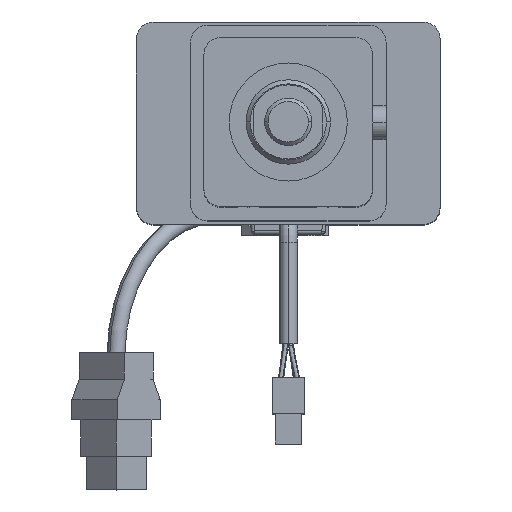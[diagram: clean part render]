
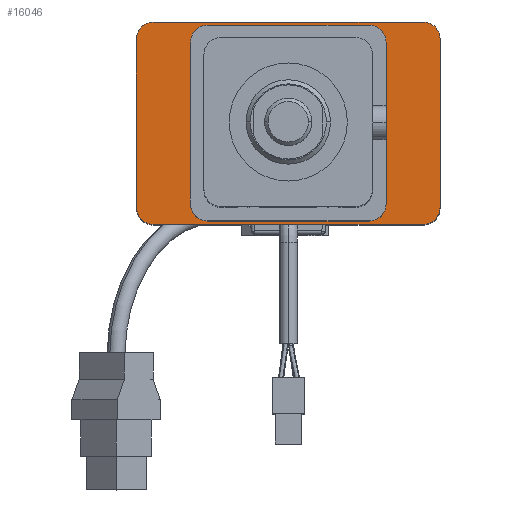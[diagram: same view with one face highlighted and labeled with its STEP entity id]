
A CAD part, top view. The second image highlights one B-rep face of the part: STEP entity #16046.
In plain terms, the highlighted planar face has unit normal (0, 0, 1).
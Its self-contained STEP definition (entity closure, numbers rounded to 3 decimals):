
#68 = DIRECTION ( 'NONE',  ( 0., 0., -1. ) ) ;
#94 = CARTESIAN_POINT ( 'NONE',  ( -29., 24., -20. ) ) ;
#111 = DIRECTION ( 'NONE',  ( 0., 0., 1. ) ) ;
#316 = CARTESIAN_POINT ( 'NONE',  ( 24., 29., -20. ) ) ;
#715 = DIRECTION ( 'NONE',  ( 0., 0., 1. ) ) ;
#825 = DIRECTION ( 'NONE',  ( 1., 0., 0. ) ) ;
#842 = CARTESIAN_POINT ( 'NONE',  ( -40., -30., -20. ) ) ;
#944 = CARTESIAN_POINT ( 'NONE',  ( 29., 24., -20. ) ) ;
#960 = LINE ( 'NONE', #1372, #21905 ) ;
#1018 = EDGE_CURVE ( 'NONE', #17635, #7182, #10078, .T. ) ;
#1049 = VERTEX_POINT ( 'NONE', #11061 ) ;
#1110 = VERTEX_POINT ( 'NONE', #22001 ) ;
#1237 = EDGE_CURVE ( 'NONE', #14637, #20295, #22277, .T. ) ;
#1372 = CARTESIAN_POINT ( 'NONE',  ( 29., -24., -20. ) ) ;
#1450 = DIRECTION ( 'NONE',  ( 0., -1., 0. ) ) ;
#1457 = LINE ( 'NONE', #316, #15629 ) ;
#1964 = ORIENTED_EDGE ( 'NONE', *, *, #15720, .T. ) ;
#1994 = DIRECTION ( 'NONE',  ( -1., 0., 0. ) ) ;
#2032 = CARTESIAN_POINT ( 'NONE',  ( -24., -24., -20. ) ) ;
#2052 = AXIS2_PLACEMENT_3D ( 'NONE', #4249, #16906, #20217 ) ;
#2079 = VERTEX_POINT ( 'NONE', #842 ) ;
#2379 = VECTOR ( 'NONE', #12516, 1000. ) ;
#2420 = PLANE ( 'NONE',  #2052 ) ;
#2699 = AXIS2_PLACEMENT_3D ( 'NONE', #11464, #715, #11294 ) ;
#2756 = CARTESIAN_POINT ( 'NONE',  ( 40., 25., -20. ) ) ;
#3701 = VERTEX_POINT ( 'NONE', #4812 ) ;
#3795 = CARTESIAN_POINT ( 'NONE',  ( 24., 24., -20. ) ) ;
#3919 = CARTESIAN_POINT ( 'NONE',  ( 24., -24., -20. ) ) ;
#4026 = DIRECTION ( 'NONE',  ( 0., 0., -1. ) ) ;
#4205 = ORIENTED_EDGE ( 'NONE', *, *, #1237, .T. ) ;
#4249 = CARTESIAN_POINT ( 'NONE',  ( 0., 0., -20. ) ) ;
#4285 = EDGE_CURVE ( 'NONE', #20875, #2079, #20184, .T. ) ;
#4315 = ORIENTED_EDGE ( 'NONE', *, *, #12283, .T. ) ;
#4364 = VECTOR ( 'NONE', #5154, 1000. ) ;
#4578 = DIRECTION ( 'NONE',  ( 0., 0., 1. ) ) ;
#4711 = CARTESIAN_POINT ( 'NONE',  ( -29., -24., -20. ) ) ;
#4712 = ORIENTED_EDGE ( 'NONE', *, *, #15957, .T. ) ;
#4730 = EDGE_CURVE ( 'NONE', #3701, #10350, #11702, .T. ) ;
#4757 = AXIS2_PLACEMENT_3D ( 'NONE', #20242, #5688, #20398 ) ;
#4812 = CARTESIAN_POINT ( 'NONE',  ( 45., 25., -20. ) ) ;
#5154 = DIRECTION ( 'NONE',  ( -1., 0., 0. ) ) ;
#5391 = CARTESIAN_POINT ( 'NONE',  ( -45., 30., -20. ) ) ;
#5442 = ORIENTED_EDGE ( 'NONE', *, *, #4730, .T. ) ;
#5688 = DIRECTION ( 'NONE',  ( 0., 0., 1. ) ) ;
#5765 = EDGE_CURVE ( 'NONE', #20295, #17635, #1457, .T. ) ;
#5778 = CARTESIAN_POINT ( 'NONE',  ( 45., 30., -20. ) ) ;
#5810 = CARTESIAN_POINT ( 'NONE',  ( 40., -30., -20. ) ) ;
#5914 = AXIS2_PLACEMENT_3D ( 'NONE', #3795, #4026, #20224 ) ;
#5944 = EDGE_CURVE ( 'NONE', #20875, #8276, #9366, .T. ) ;
#5990 = VERTEX_POINT ( 'NONE', #18393 ) ;
#6071 = CARTESIAN_POINT ( 'NONE',  ( 24., 29., -20. ) ) ;
#6270 = VERTEX_POINT ( 'NONE', #4711 ) ;
#6379 = AXIS2_PLACEMENT_3D ( 'NONE', #9711, #22409, #11543 ) ;
#7182 = VERTEX_POINT ( 'NONE', #944 ) ;
#7423 = EDGE_CURVE ( 'NONE', #1110, #22749, #22376, .T. ) ;
#7812 = EDGE_CURVE ( 'NONE', #6270, #14637, #18049, .T. ) ;
#8276 = VERTEX_POINT ( 'NONE', #11470 ) ;
#8828 = CIRCLE ( 'NONE', #22077, 5. ) ;
#9006 = LINE ( 'NONE', #16946, #22070 ) ;
#9035 = CARTESIAN_POINT ( 'NONE',  ( -24., -29., -20. ) ) ;
#9112 = CARTESIAN_POINT ( 'NONE',  ( -40., 25., -20. ) ) ;
#9366 = CIRCLE ( 'NONE', #2699, 5. ) ;
#9378 = ORIENTED_EDGE ( 'NONE', *, *, #18232, .F. ) ;
#9711 = CARTESIAN_POINT ( 'NONE',  ( -24., 24., -20. ) ) ;
#9899 = VERTEX_POINT ( 'NONE', #22008 ) ;
#9977 = FACE_BOUND ( 'NONE', #13723, .T. ) ;
#10078 = CIRCLE ( 'NONE', #5914, 5. ) ;
#10350 = VERTEX_POINT ( 'NONE', #13517 ) ;
#10633 = CARTESIAN_POINT ( 'NONE',  ( 45., -30., -20. ) ) ;
#11061 = CARTESIAN_POINT ( 'NONE',  ( -40., 30., -20. ) ) ;
#11162 = DIRECTION ( 'NONE',  ( 0., 1., 0. ) ) ;
#11294 = DIRECTION ( 'NONE',  ( -1., 0., 0. ) ) ;
#11419 = ORIENTED_EDGE ( 'NONE', *, *, #5765, .T. ) ;
#11464 = CARTESIAN_POINT ( 'NONE',  ( 40., -25., -20. ) ) ;
#11470 = CARTESIAN_POINT ( 'NONE',  ( 45., -25., -20. ) ) ;
#11543 = DIRECTION ( 'NONE',  ( 1., 0., 0. ) ) ;
#11702 = CIRCLE ( 'NONE', #15731, 5. ) ;
#11738 = ORIENTED_EDGE ( 'NONE', *, *, #12830, .F. ) ;
#11911 = ORIENTED_EDGE ( 'NONE', *, *, #13691, .T. ) ;
#12273 = LINE ( 'NONE', #9035, #4364 ) ;
#12283 = EDGE_CURVE ( 'NONE', #1049, #22749, #16887, .T. ) ;
#12516 = DIRECTION ( 'NONE',  ( -1., 0., 0. ) ) ;
#12708 = DIRECTION ( 'NONE',  ( 1., 0., 0. ) ) ;
#12830 = EDGE_CURVE ( 'NONE', #3701, #8276, #12893, .T. ) ;
#12893 = LINE ( 'NONE', #5778, #14896 ) ;
#13100 = ORIENTED_EDGE ( 'NONE', *, *, #15445, .T. ) ;
#13121 = AXIS2_PLACEMENT_3D ( 'NONE', #3919, #20114, #21971 ) ;
#13183 = CARTESIAN_POINT ( 'NONE',  ( -45., 25., -20. ) ) ;
#13517 = CARTESIAN_POINT ( 'NONE',  ( 40., 30., -20. ) ) ;
#13691 = EDGE_CURVE ( 'NONE', #5990, #9899, #12273, .T. ) ;
#13723 = EDGE_LOOP ( 'NONE', ( #14627, #4205, #11419, #23265, #13100, #18259, #11911, #4712 ) ) ;
#14442 = DIRECTION ( 'NONE',  ( 0., 1., 0. ) ) ;
#14627 = ORIENTED_EDGE ( 'NONE', *, *, #7812, .T. ) ;
#14637 = VERTEX_POINT ( 'NONE', #18250 ) ;
#14896 = VECTOR ( 'NONE', #15054, 1000. ) ;
#14981 = VECTOR ( 'NONE', #11162, 1000. ) ;
#15054 = DIRECTION ( 'NONE',  ( 0., -1., 0. ) ) ;
#15445 = EDGE_CURVE ( 'NONE', #7182, #17567, #960, .T. ) ;
#15629 = VECTOR ( 'NONE', #22089, 1000. ) ;
#15720 = EDGE_CURVE ( 'NONE', #1110, #2079, #17332, .T. ) ;
#15731 = AXIS2_PLACEMENT_3D ( 'NONE', #2756, #4578, #17242 ) ;
#15957 = EDGE_CURVE ( 'NONE', #9899, #6270, #8828, .T. ) ;
#16046 = ADVANCED_FACE ( 'NONE', ( #9977, #19011 ), #2420, .F. ) ;
#16213 = AXIS2_PLACEMENT_3D ( 'NONE', #9112, #111, #1994 ) ;
#16338 = EDGE_CURVE ( 'NONE', #17567, #5990, #18146, .T. ) ;
#16822 = CARTESIAN_POINT ( 'NONE',  ( 29., -24., -20. ) ) ;
#16887 = CIRCLE ( 'NONE', #16213, 5. ) ;
#16906 = DIRECTION ( 'NONE',  ( 0., 0., -1. ) ) ;
#16946 = CARTESIAN_POINT ( 'NONE',  ( 45., 30., -20. ) ) ;
#17242 = DIRECTION ( 'NONE',  ( -1., 0., 0. ) ) ;
#17252 = ORIENTED_EDGE ( 'NONE', *, *, #5944, .T. ) ;
#17332 = CIRCLE ( 'NONE', #4757, 5. ) ;
#17567 = VERTEX_POINT ( 'NONE', #16822 ) ;
#17635 = VERTEX_POINT ( 'NONE', #6071 ) ;
#18049 = LINE ( 'NONE', #94, #14981 ) ;
#18146 = CIRCLE ( 'NONE', #13121, 5. ) ;
#18232 = EDGE_CURVE ( 'NONE', #1049, #10350, #9006, .T. ) ;
#18250 = CARTESIAN_POINT ( 'NONE',  ( -29., 24., -20. ) ) ;
#18259 = ORIENTED_EDGE ( 'NONE', *, *, #16338, .T. ) ;
#18348 = VECTOR ( 'NONE', #14442, 1000. ) ;
#18393 = CARTESIAN_POINT ( 'NONE',  ( 24., -29., -20. ) ) ;
#19011 = FACE_OUTER_BOUND ( 'NONE', #22187, .T. ) ;
#20114 = DIRECTION ( 'NONE',  ( 0., 0., -1. ) ) ;
#20184 = LINE ( 'NONE', #10633, #2379 ) ;
#20217 = DIRECTION ( 'NONE',  ( -1., 0., 0. ) ) ;
#20224 = DIRECTION ( 'NONE',  ( 1., 0., 0. ) ) ;
#20242 = CARTESIAN_POINT ( 'NONE',  ( -40., -25., -20. ) ) ;
#20295 = VERTEX_POINT ( 'NONE', #20460 ) ;
#20398 = DIRECTION ( 'NONE',  ( -1., 0., 0. ) ) ;
#20460 = CARTESIAN_POINT ( 'NONE',  ( -24., 29., -20. ) ) ;
#20875 = VERTEX_POINT ( 'NONE', #5810 ) ;
#21905 = VECTOR ( 'NONE', #1450, 1000. ) ;
#21971 = DIRECTION ( 'NONE',  ( 1., 0., 0. ) ) ;
#21991 = ORIENTED_EDGE ( 'NONE', *, *, #4285, .F. ) ;
#22001 = CARTESIAN_POINT ( 'NONE',  ( -45., -25., -20. ) ) ;
#22008 = CARTESIAN_POINT ( 'NONE',  ( -24., -29., -20. ) ) ;
#22070 = VECTOR ( 'NONE', #825, 1000. ) ;
#22077 = AXIS2_PLACEMENT_3D ( 'NONE', #2032, #68, #12708 ) ;
#22089 = DIRECTION ( 'NONE',  ( 1., 0., 0. ) ) ;
#22187 = EDGE_LOOP ( 'NONE', ( #11738, #5442, #9378, #4315, #22708, #1964, #21991, #17252 ) ) ;
#22277 = CIRCLE ( 'NONE', #6379, 5. ) ;
#22376 = LINE ( 'NONE', #5391, #18348 ) ;
#22409 = DIRECTION ( 'NONE',  ( 0., 0., -1. ) ) ;
#22708 = ORIENTED_EDGE ( 'NONE', *, *, #7423, .F. ) ;
#22749 = VERTEX_POINT ( 'NONE', #13183 ) ;
#23265 = ORIENTED_EDGE ( 'NONE', *, *, #1018, .T. ) ;
